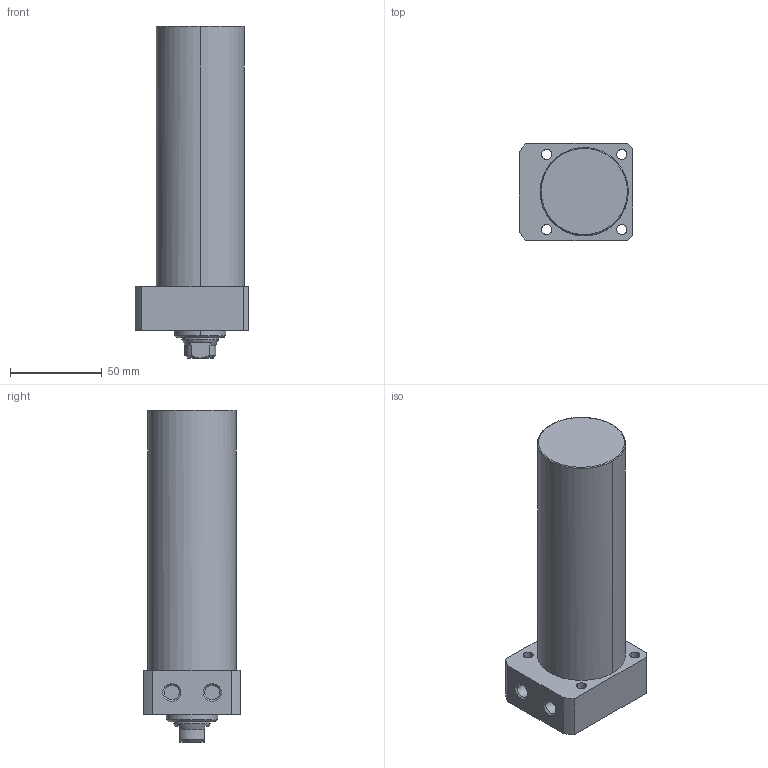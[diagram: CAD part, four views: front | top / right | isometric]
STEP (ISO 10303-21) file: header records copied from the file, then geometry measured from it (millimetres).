
FILE_DESCRIPTION((' '),'2;1');
FILE_NAME( 'TLLR-048CA-115.STEP.stp', '2025-10-24T16:34:31', (' '), ('--- Datakit www.datakit.com---'), ' Datakit CrossCadWare V2024.1 Dec 21 2023', 'Mastercam 2025', ' ');
FILE_SCHEMA(('AUTOMOTIVE_DESIGN { 1 0 10303 214 1 1 1 1 }'));
Length unit declared in the file: millimetre
Products named in the file (1): TLLR-048CA-115
Bounding box: 62 x 53 x 181 mm (x, y, z)
Volume: 335307.2 mm3; surface area: 36776.5 mm2
Topology: 1 solids, 1 shells, 63 faces, 177 edges, 122 vertices
Faces by surface type: cylinder 28, plane 19, cone 14, torus 2
Entity records: 2172 total; most frequent: CARTESIAN_POINT 409, DIRECTION 400, ORIENTED_EDGE 350, EDGE_CURVE 175, AXIS2_PLACEMENT_3D 169, VERTEX_POINT 122, CIRCLE 105, EDGE_LOOP 79
